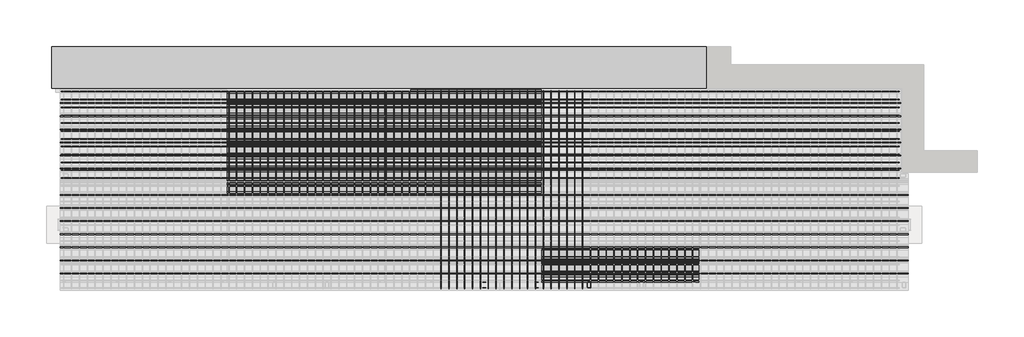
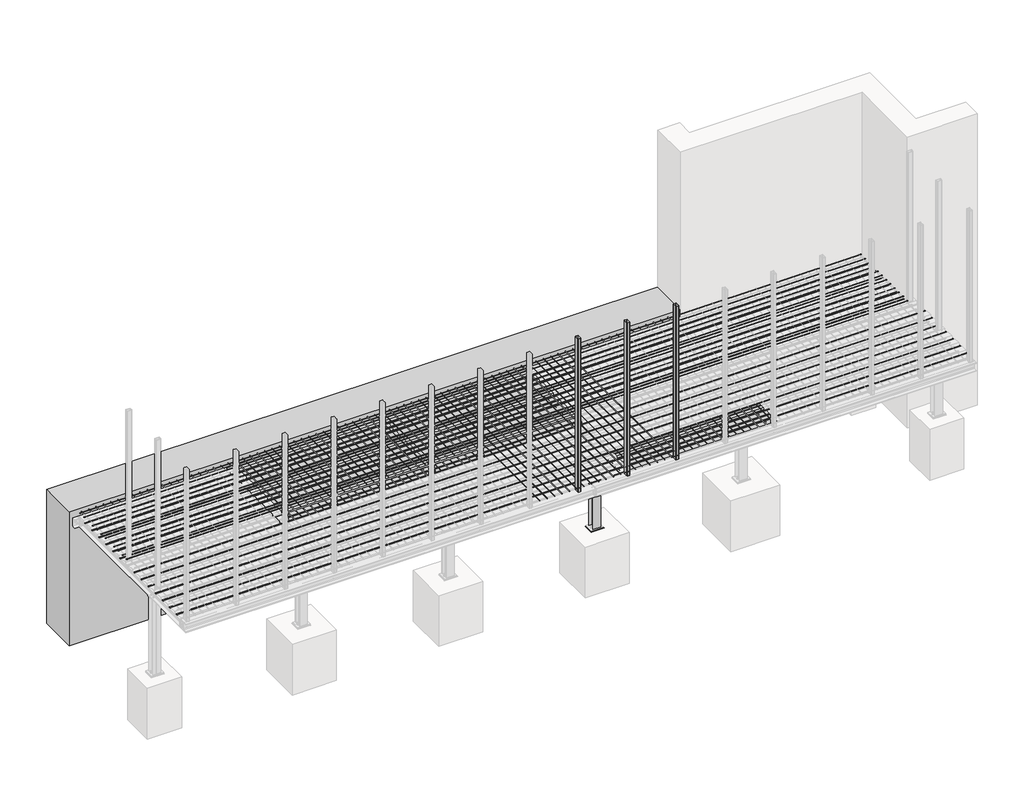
# One storey, part 3 of 36: 51 beams, 4 columns, 1 plate.
"""IFC4 building model written with IfcOpenShell, lengths in millimetres."""

from ifc_helpers import new_model, si_unit, point, frame, frame_2d, origin, place, context, project, spatial, polyline, circle_curve, trimmed, segment, composite_curve, outline, extrude, faceted_brep, element, save

model = new_model("IFC4")

# Units and contexts
model_context = context("Model", 3, world=origin())
ifc_project = project(units=[si_unit("LENGTHUNIT", "METRE", prefix="MILLI")], contexts=[model_context])

# Site, building, storey
site = spatial("IfcSite", under=ifc_project)
building = spatial("IfcBuilding", under=site)
storey = spatial("IfcBuildingStorey", under=building, Name="Základy", Elevation=-1200.0)

# Beams
placement = place(None, origin())
element("IfcBeam", 1, ObjectType="800*2900", at=placement, inside=storey, context=model_context, shape_type="SweptSolid", body=[
    extrude(outline(polyline([(12300.0, 3860.0), (-200.0, 3860.0), (-200.0, 4660.0), (12300.0, 4660.0), (12300.0, 3860.0)])), frame((0.0, 0.0, -2900.0), z_axis=(0.0, 0.0, 1.0), x_axis=(1.0, 0.0, 0.0)), (0.0, 0.0, 1.0), 2900.0),
])
element("IfcBeam", 2, ObjectType="D12", at=placement, inside=storey, context=model_context, shape_type="SweptSolid", body=[
    extrude(outline(composite_curve([segment(trimmed(circle_curve(frame_2d((3579.992562, -139.0)), 6.0), [point((3573.992562, -139.0))], [point((3585.992562, -139.0))], False, "CARTESIAN"), True, "CONTINUOUS"), segment(trimmed(circle_curve(frame_2d((3579.992562, -139.0)), 6.0), [point((3585.992562, -139.0))], [point((3573.992562, -139.0))], False, "CARTESIAN"), True, "CONTINUOUS")], self_intersect=False)), frame((-40.0, 0.0, 0.0), z_axis=(1.0, 0.0, 0.0), x_axis=(0.0, 1.0, 0.0)), (0.0, 0.0, 1.0), 16035.0),
])
element("IfcBeam", 3, ObjectType="D12", at=placement, inside=storey, context=model_context, shape_type="SweptSolid", body=[
    extrude(outline(composite_curve([segment(trimmed(circle_curve(frame_2d((3329.992562, -139.0)), 6.0), [point((3323.992562, -139.0))], [point((3335.992562, -139.0))], False, "CARTESIAN"), True, "CONTINUOUS"), segment(trimmed(circle_curve(frame_2d((3329.992562, -139.0)), 6.0), [point((3335.992562, -139.0))], [point((3323.992562, -139.0))], False, "CARTESIAN"), True, "CONTINUOUS")], self_intersect=False)), frame((-40.0, 0.0, 0.0), z_axis=(1.0, 0.0, 0.0), x_axis=(0.0, 1.0, 0.0)), (0.0, 0.0, 1.0), 16035.0),
])
element("IfcBeam", 4, ObjectType="D12", at=placement, inside=storey, context=model_context, shape_type="SweptSolid", body=[
    extrude(outline(composite_curve([segment(trimmed(circle_curve(frame_2d((3079.992562, -139.0)), 6.0), [point((3073.992562, -139.0))], [point((3085.992562, -139.0))], False, "CARTESIAN"), True, "CONTINUOUS"), segment(trimmed(circle_curve(frame_2d((3079.992562, -139.0)), 6.0), [point((3085.992562, -139.0))], [point((3073.992562, -139.0))], False, "CARTESIAN"), True, "CONTINUOUS")], self_intersect=False)), frame((-40.0, 0.0, 0.0), z_axis=(1.0, 0.0, 0.0), x_axis=(0.0, 1.0, 0.0)), (0.0, 0.0, 1.0), 16035.0),
])
element("IfcBeam", 5, ObjectType="D12", at=placement, inside=storey, context=model_context, shape_type="SweptSolid", body=[
    extrude(outline(composite_curve([segment(trimmed(circle_curve(frame_2d((2829.992562, -139.0)), 6.0), [point((2823.992562, -139.0))], [point((2835.992562, -139.0))], False, "CARTESIAN"), True, "CONTINUOUS"), segment(trimmed(circle_curve(frame_2d((2829.992562, -139.0)), 6.0), [point((2835.992562, -139.0))], [point((2823.992562, -139.0))], False, "CARTESIAN"), True, "CONTINUOUS")], self_intersect=False)), frame((-40.0, 0.0, 0.0), z_axis=(1.0, 0.0, 0.0), x_axis=(0.0, 1.0, 0.0)), (0.0, 0.0, 1.0), 16035.0),
])
element("IfcBeam", 6, ObjectType="D12", at=placement, inside=storey, context=model_context, shape_type="SweptSolid", body=[
    extrude(outline(composite_curve([segment(trimmed(circle_curve(frame_2d((2579.992562, -139.0)), 6.0), [point((2573.992562, -139.0))], [point((2585.992562, -139.0))], False, "CARTESIAN"), True, "CONTINUOUS"), segment(trimmed(circle_curve(frame_2d((2579.992562, -139.0)), 6.0), [point((2585.992562, -139.0))], [point((2573.992562, -139.0))], False, "CARTESIAN"), True, "CONTINUOUS")], self_intersect=False)), frame((-40.0, 0.0, 0.0), z_axis=(1.0, 0.0, 0.0), x_axis=(0.0, 1.0, 0.0)), (0.0, 0.0, 1.0), 16035.0),
])
element("IfcBeam", 7, ObjectType="D12", at=placement, inside=storey, context=model_context, shape_type="SweptSolid", body=[
    extrude(outline(composite_curve([segment(trimmed(circle_curve(frame_2d((2329.992562, -139.0)), 6.0), [point((2323.992562, -139.0))], [point((2335.992562, -139.0))], False, "CARTESIAN"), True, "CONTINUOUS"), segment(trimmed(circle_curve(frame_2d((2329.992562, -139.0)), 6.0), [point((2335.992562, -139.0))], [point((2323.992562, -139.0))], False, "CARTESIAN"), True, "CONTINUOUS")], self_intersect=False)), frame((-40.0, 0.0, 0.0), z_axis=(1.0, 0.0, 0.0), x_axis=(0.0, 1.0, 0.0)), (0.0, 0.0, 1.0), 16035.0),
])
element("IfcBeam", 8, ObjectType="D12", at=placement, inside=storey, context=model_context, shape_type="SweptSolid", body=[
    extrude(outline(composite_curve([segment(trimmed(circle_curve(frame_2d((1829.992562, -139.0)), 6.0), [point((1823.992562, -139.0))], [point((1835.992562, -139.0))], False, "CARTESIAN"), True, "CONTINUOUS"), segment(trimmed(circle_curve(frame_2d((1829.992562, -139.0)), 6.0), [point((1835.992562, -139.0))], [point((1823.992562, -139.0))], False, "CARTESIAN"), True, "CONTINUOUS")], self_intersect=False)), frame((-40.0, 0.0, 0.0), z_axis=(1.0, 0.0, 0.0), x_axis=(0.0, 1.0, 0.0)), (0.0, 0.0, 1.0), 16180.0),
])
element("IfcBeam", 9, ObjectType="D12", at=placement, inside=storey, context=model_context, shape_type="SweptSolid", body=[
    extrude(outline(composite_curve([segment(trimmed(circle_curve(frame_2d((1579.992562, -139.0)), 6.0), [point((1573.992562, -139.0))], [point((1585.992562, -139.0))], False, "CARTESIAN"), True, "CONTINUOUS"), segment(trimmed(circle_curve(frame_2d((1579.992562, -139.0)), 6.0), [point((1585.992562, -139.0))], [point((1573.992562, -139.0))], False, "CARTESIAN"), True, "CONTINUOUS")], self_intersect=False)), frame((-40.0, 0.0, 0.0), z_axis=(1.0, 0.0, 0.0), x_axis=(0.0, 1.0, 0.0)), (0.0, 0.0, 1.0), 16180.0),
])
element("IfcBeam", 10, ObjectType="D12", at=placement, inside=storey, context=model_context, shape_type="SweptSolid", body=[
    extrude(outline(composite_curve([segment(trimmed(circle_curve(frame_2d((1329.992562, -139.0)), 6.0), [point((1323.992562, -139.0))], [point((1335.992562, -139.0))], False, "CARTESIAN"), True, "CONTINUOUS"), segment(trimmed(circle_curve(frame_2d((1329.992562, -139.0)), 6.0), [point((1335.992562, -139.0))], [point((1323.992562, -139.0))], False, "CARTESIAN"), True, "CONTINUOUS")], self_intersect=False)), frame((-40.0, 0.0, 0.0), z_axis=(1.0, 0.0, 0.0), x_axis=(0.0, 1.0, 0.0)), (0.0, 0.0, 1.0), 16180.0),
])
element("IfcBeam", 11, ObjectType="D12", at=placement, inside=storey, context=model_context, shape_type="SweptSolid", body=[
    extrude(outline(composite_curve([segment(trimmed(circle_curve(frame_2d((1079.992562, -139.0)), 6.0), [point((1073.992562, -139.0))], [point((1085.992562, -139.0))], False, "CARTESIAN"), True, "CONTINUOUS"), segment(trimmed(circle_curve(frame_2d((1079.992562, -139.0)), 6.0), [point((1085.992562, -139.0))], [point((1073.992562, -139.0))], False, "CARTESIAN"), True, "CONTINUOUS")], self_intersect=False)), frame((-40.0, 0.0, 0.0), z_axis=(1.0, 0.0, 0.0), x_axis=(0.0, 1.0, 0.0)), (0.0, 0.0, 1.0), 16180.0),
])
element("IfcBeam", 12, ObjectType="D12", at=placement, inside=storey, context=model_context, shape_type="SweptSolid", body=[
    extrude(outline(composite_curve([segment(trimmed(circle_curve(frame_2d((829.992562, -139.0)), 6.0), [point((823.992562, -139.0))], [point((835.992562, -139.0))], False, "CARTESIAN"), True, "CONTINUOUS"), segment(trimmed(circle_curve(frame_2d((829.992562, -139.0)), 6.0), [point((835.992562, -139.0))], [point((823.992562, -139.0))], False, "CARTESIAN"), True, "CONTINUOUS")], self_intersect=False)), frame((-40.0, 0.0, 0.0), z_axis=(1.0, 0.0, 0.0), x_axis=(0.0, 1.0, 0.0)), (0.0, 0.0, 1.0), 16180.0),
])
element("IfcBeam", 13, ObjectType="D12", at=placement, inside=storey, context=model_context, shape_type="SweptSolid", body=[
    extrude(outline(composite_curve([segment(trimmed(circle_curve(frame_2d((579.992562, -139.0)), 6.0), [point((573.992562, -139.0))], [point((585.992562, -139.0))], False, "CARTESIAN"), True, "CONTINUOUS"), segment(trimmed(circle_curve(frame_2d((579.992562, -139.0)), 6.0), [point((585.992562, -139.0))], [point((573.992562, -139.0))], False, "CARTESIAN"), True, "CONTINUOUS")], self_intersect=False)), frame((-40.0, 0.0, 0.0), z_axis=(1.0, 0.0, 0.0), x_axis=(0.0, 1.0, 0.0)), (0.0, 0.0, 1.0), 16180.0),
])
element("IfcBeam", 14, ObjectType="D12", at=placement, inside=storey, context=model_context, shape_type="SweptSolid", body=[
    extrude(outline(composite_curve([segment(trimmed(circle_curve(frame_2d((329.992562, -139.0)), 6.0), [point((323.992562, -139.0))], [point((335.992562, -139.0))], False, "CARTESIAN"), True, "CONTINUOUS"), segment(trimmed(circle_curve(frame_2d((329.992562, -139.0)), 6.0), [point((335.992562, -139.0))], [point((323.992562, -139.0))], False, "CARTESIAN"), True, "CONTINUOUS")], self_intersect=False)), frame((-40.0, 0.0, 0.0), z_axis=(1.0, 0.0, 0.0), x_axis=(0.0, 1.0, 0.0)), (0.0, 0.0, 1.0), 16180.0),
])
element("IfcBeam", 15, ObjectType="D8", at=placement, inside=storey, context=model_context, shape_type="SweptSolid", body=[
    extrude(outline(composite_curve([segment(trimmed(circle_curve(frame_2d((3799.9975821, -57.0)), 4.0), [point((3795.9975821, -57.0))], [point((3803.9975821, -57.0))], False, "CARTESIAN"), True, "CONTINUOUS"), segment(trimmed(circle_curve(frame_2d((3799.9975821, -57.0)), 4.0), [point((3803.9975821, -57.0))], [point((3795.9975821, -57.0))], False, "CARTESIAN"), True, "CONTINUOUS")], self_intersect=False)), frame((-15.0, 0.0, 0.0), z_axis=(1.0, 0.0, 0.0), x_axis=(0.0, 1.0, 0.0)), (0.0, 0.0, 1.0), 15985.0),
])
element("IfcBeam", 16, ObjectType="D8", at=placement, inside=storey, context=model_context, shape_type="SweptSolid", body=[
    extrude(outline(composite_curve([segment(trimmed(circle_curve(frame_2d((3649.9975821, -57.0)), 4.0), [point((3645.9975821, -57.0))], [point((3653.9975821, -57.0))], False, "CARTESIAN"), True, "CONTINUOUS"), segment(trimmed(circle_curve(frame_2d((3649.9975821, -57.0)), 4.0), [point((3653.9975821, -57.0))], [point((3645.9975821, -57.0))], False, "CARTESIAN"), True, "CONTINUOUS")], self_intersect=False)), frame((-15.0, 0.0, 0.0), z_axis=(1.0, 0.0, 0.0), x_axis=(0.0, 1.0, 0.0)), (0.0, 0.0, 1.0), 15985.0),
])
element("IfcBeam", 17, ObjectType="D8", at=placement, inside=storey, context=model_context, shape_type="SweptSolid", body=[
    extrude(outline(composite_curve([segment(trimmed(circle_curve(frame_2d((3499.9975821, -57.0)), 4.0), [point((3495.9975821, -57.0))], [point((3503.9975821, -57.0))], False, "CARTESIAN"), True, "CONTINUOUS"), segment(trimmed(circle_curve(frame_2d((3499.9975821, -57.0)), 4.0), [point((3503.9975821, -57.0))], [point((3495.9975821, -57.0))], False, "CARTESIAN"), True, "CONTINUOUS")], self_intersect=False)), frame((-15.0, 0.0, 0.0), z_axis=(1.0, 0.0, 0.0), x_axis=(0.0, 1.0, 0.0)), (0.0, 0.0, 1.0), 15985.0),
])
element("IfcBeam", 18, ObjectType="D8", at=placement, inside=storey, context=model_context, shape_type="SweptSolid", body=[
    extrude(outline(composite_curve([segment(trimmed(circle_curve(frame_2d((3349.9975821, -57.0)), 4.0), [point((3345.9975821, -57.0))], [point((3353.9975821, -57.0))], False, "CARTESIAN"), True, "CONTINUOUS"), segment(trimmed(circle_curve(frame_2d((3349.9975821, -57.0)), 4.0), [point((3353.9975821, -57.0))], [point((3345.9975821, -57.0))], False, "CARTESIAN"), True, "CONTINUOUS")], self_intersect=False)), frame((-15.0, 0.0, 0.0), z_axis=(1.0, 0.0, 0.0), x_axis=(0.0, 1.0, 0.0)), (0.0, 0.0, 1.0), 15985.0),
])
element("IfcBeam", 19, ObjectType="D8", at=placement, inside=storey, context=model_context, shape_type="SweptSolid", body=[
    extrude(outline(composite_curve([segment(trimmed(circle_curve(frame_2d((3199.9975821, -57.0)), 4.0), [point((3195.9975821, -57.0))], [point((3203.9975821, -57.0))], False, "CARTESIAN"), True, "CONTINUOUS"), segment(trimmed(circle_curve(frame_2d((3199.9975821, -57.0)), 4.0), [point((3203.9975821, -57.0))], [point((3195.9975821, -57.0))], False, "CARTESIAN"), True, "CONTINUOUS")], self_intersect=False)), frame((-15.0, 0.0, 0.0), z_axis=(1.0, 0.0, 0.0), x_axis=(0.0, 1.0, 0.0)), (0.0, 0.0, 1.0), 15985.0),
])
element("IfcBeam", 20, ObjectType="D8", at=placement, inside=storey, context=model_context, shape_type="SweptSolid", body=[
    extrude(outline(composite_curve([segment(trimmed(circle_curve(frame_2d((3049.9975821, -57.0)), 4.0), [point((3045.9975821, -57.0))], [point((3053.9975821, -57.0))], False, "CARTESIAN"), True, "CONTINUOUS"), segment(trimmed(circle_curve(frame_2d((3049.9975821, -57.0)), 4.0), [point((3053.9975821, -57.0))], [point((3045.9975821, -57.0))], False, "CARTESIAN"), True, "CONTINUOUS")], self_intersect=False)), frame((-15.0, 0.0, 0.0), z_axis=(1.0, 0.0, 0.0), x_axis=(0.0, 1.0, 0.0)), (0.0, 0.0, 1.0), 15985.0),
])
element("IfcBeam", 21, ObjectType="D8", at=placement, inside=storey, context=model_context, shape_type="SweptSolid", body=[
    extrude(outline(composite_curve([segment(trimmed(circle_curve(frame_2d((2899.9975821, -57.0)), 4.0), [point((2895.9975821, -57.0))], [point((2903.9975821, -57.0))], False, "CARTESIAN"), True, "CONTINUOUS"), segment(trimmed(circle_curve(frame_2d((2899.9975821, -57.0)), 4.0), [point((2903.9975821, -57.0))], [point((2895.9975821, -57.0))], False, "CARTESIAN"), True, "CONTINUOUS")], self_intersect=False)), frame((-15.0, 0.0, 0.0), z_axis=(1.0, 0.0, 0.0), x_axis=(0.0, 1.0, 0.0)), (0.0, 0.0, 1.0), 15985.0),
])
element("IfcBeam", 22, ObjectType="D8", at=placement, inside=storey, context=model_context, shape_type="SweptSolid", body=[
    extrude(outline(composite_curve([segment(trimmed(circle_curve(frame_2d((2749.9975821, -57.0)), 4.0), [point((2745.9975821, -57.0))], [point((2753.9975821, -57.0))], False, "CARTESIAN"), True, "CONTINUOUS"), segment(trimmed(circle_curve(frame_2d((2749.9975821, -57.0)), 4.0), [point((2753.9975821, -57.0))], [point((2745.9975821, -57.0))], False, "CARTESIAN"), True, "CONTINUOUS")], self_intersect=False)), frame((-15.0, 0.0, 0.0), z_axis=(1.0, 0.0, 0.0), x_axis=(0.0, 1.0, 0.0)), (0.0, 0.0, 1.0), 15985.0),
])
element("IfcBeam", 23, ObjectType="D8", at=placement, inside=storey, context=model_context, shape_type="SweptSolid", body=[
    extrude(outline(composite_curve([segment(trimmed(circle_curve(frame_2d((2599.9975821, -57.0)), 4.0), [point((2595.9975821, -57.0))], [point((2603.9975821, -57.0))], False, "CARTESIAN"), True, "CONTINUOUS"), segment(trimmed(circle_curve(frame_2d((2599.9975821, -57.0)), 4.0), [point((2603.9975821, -57.0))], [point((2595.9975821, -57.0))], False, "CARTESIAN"), True, "CONTINUOUS")], self_intersect=False)), frame((-15.0, 0.0, 0.0), z_axis=(1.0, 0.0, 0.0), x_axis=(0.0, 1.0, 0.0)), (0.0, 0.0, 1.0), 15985.0),
])
element("IfcBeam", 24, ObjectType="D8", at=placement, inside=storey, context=model_context, shape_type="SweptSolid", body=[
    extrude(outline(composite_curve([segment(trimmed(circle_curve(frame_2d((2449.9975821, -57.0)), 4.0), [point((2445.9975821, -57.0))], [point((2453.9975821, -57.0))], False, "CARTESIAN"), True, "CONTINUOUS"), segment(trimmed(circle_curve(frame_2d((2449.9975821, -57.0)), 4.0), [point((2453.9975821, -57.0))], [point((2445.9975821, -57.0))], False, "CARTESIAN"), True, "CONTINUOUS")], self_intersect=False)), frame((-15.0, 0.0, 0.0), z_axis=(1.0, 0.0, 0.0), x_axis=(0.0, 1.0, 0.0)), (0.0, 0.0, 1.0), 15985.0),
])
element("IfcBeam", 25, ObjectType="D8", at=placement, inside=storey, context=model_context, shape_type="SweptSolid", body=[
    extrude(outline(composite_curve([segment(trimmed(circle_curve(frame_2d((2299.9975821, -57.0)), 4.0), [point((2295.9975821, -57.0))], [point((2303.9975821, -57.0))], False, "CARTESIAN"), True, "CONTINUOUS"), segment(trimmed(circle_curve(frame_2d((2299.9975821, -57.0)), 4.0), [point((2303.9975821, -57.0))], [point((2295.9975821, -57.0))], False, "CARTESIAN"), True, "CONTINUOUS")], self_intersect=False)), frame((-15.0, 0.0, 0.0), z_axis=(1.0, 0.0, 0.0), x_axis=(0.0, 1.0, 0.0)), (0.0, 0.0, 1.0), 15985.0),
])
element("IfcBeam", 26, ObjectType="D8", at=placement, inside=storey, context=model_context, shape_type="SweptSolid", body=[
    extrude(outline(composite_curve([segment(trimmed(circle_curve(frame_2d((2149.9975821, -57.0)), 4.0), [point((2145.9975821, -57.0))], [point((2153.9975821, -57.0))], False, "CARTESIAN"), True, "CONTINUOUS"), segment(trimmed(circle_curve(frame_2d((2149.9975821, -57.0)), 4.0), [point((2153.9975821, -57.0))], [point((2145.9975821, -57.0))], False, "CARTESIAN"), True, "CONTINUOUS")], self_intersect=False)), frame((-15.0, 0.0, 0.0), z_axis=(1.0, 0.0, 0.0), x_axis=(0.0, 1.0, 0.0)), (0.0, 0.0, 1.0), 15985.0),
])
element("IfcBeam", 27, ObjectType="D8", at=placement, inside=storey, context=model_context, shape_type="SweptSolid", body=[
    extrude(outline(composite_curve([segment(trimmed(circle_curve(frame_2d((-49.0, 7227.5)), 4.0), [point((-49.0, 7223.5))], [point((-49.0, 7231.5))], False, "CARTESIAN"), True, "CONTINUOUS"), segment(trimmed(circle_curve(frame_2d((-49.0, 7227.5)), 4.0), [point((-49.0, 7231.5))], [point((-49.0, 7223.5))], False, "CARTESIAN"), True, "CONTINUOUS")], self_intersect=False)), frame((0.0, 35.0, 0.0), z_axis=(0.0, 1.0, 0.0), x_axis=(0.0, 0.0, 1.0)), (0.0, 0.0, 1.0), 3780.0),
])
element("IfcBeam", 28, ObjectType="D8", at=placement, inside=storey, context=model_context, shape_type="SweptSolid", body=[
    extrude(outline(composite_curve([segment(trimmed(circle_curve(frame_2d((-49.0, 7377.5)), 4.0), [point((-49.0, 7373.5))], [point((-49.0, 7381.5))], False, "CARTESIAN"), True, "CONTINUOUS"), segment(trimmed(circle_curve(frame_2d((-49.0, 7377.5)), 4.0), [point((-49.0, 7381.5))], [point((-49.0, 7373.5))], False, "CARTESIAN"), True, "CONTINUOUS")], self_intersect=False)), frame((0.0, 35.0, 0.0), z_axis=(0.0, 1.0, 0.0), x_axis=(0.0, 0.0, 1.0)), (0.0, 0.0, 1.0), 3780.0),
])
element("IfcBeam", 29, ObjectType="D8", at=placement, inside=storey, context=model_context, shape_type="SweptSolid", body=[
    extrude(outline(composite_curve([segment(trimmed(circle_curve(frame_2d((-49.0, 7527.5)), 4.0), [point((-49.0, 7523.5))], [point((-49.0, 7531.5))], False, "CARTESIAN"), True, "CONTINUOUS"), segment(trimmed(circle_curve(frame_2d((-49.0, 7527.5)), 4.0), [point((-49.0, 7531.5))], [point((-49.0, 7523.5))], False, "CARTESIAN"), True, "CONTINUOUS")], self_intersect=False)), frame((0.0, 35.0, 0.0), z_axis=(0.0, 1.0, 0.0), x_axis=(0.0, 0.0, 1.0)), (0.0, 0.0, 1.0), 3780.0),
])
element("IfcBeam", 30, ObjectType="D8", at=placement, inside=storey, context=model_context, shape_type="SweptSolid", body=[
    extrude(outline(composite_curve([segment(trimmed(circle_curve(frame_2d((-49.0, 7677.5)), 4.0), [point((-49.0, 7673.5))], [point((-49.0, 7681.5))], False, "CARTESIAN"), True, "CONTINUOUS"), segment(trimmed(circle_curve(frame_2d((-49.0, 7677.5)), 4.0), [point((-49.0, 7681.5))], [point((-49.0, 7673.5))], False, "CARTESIAN"), True, "CONTINUOUS")], self_intersect=False)), frame((0.0, 35.0, 0.0), z_axis=(0.0, 1.0, 0.0), x_axis=(0.0, 0.0, 1.0)), (0.0, 0.0, 1.0), 3780.0),
])
element("IfcBeam", 31, ObjectType="D8", at=placement, inside=storey, context=model_context, shape_type="SweptSolid", body=[
    extrude(outline(composite_curve([segment(trimmed(circle_curve(frame_2d((-49.0, 7827.5)), 4.0), [point((-49.0, 7823.5))], [point((-49.0, 7831.5))], False, "CARTESIAN"), True, "CONTINUOUS"), segment(trimmed(circle_curve(frame_2d((-49.0, 7827.5)), 4.0), [point((-49.0, 7831.5))], [point((-49.0, 7823.5))], False, "CARTESIAN"), True, "CONTINUOUS")], self_intersect=False)), frame((0.0, 35.0, 0.0), z_axis=(0.0, 1.0, 0.0), x_axis=(0.0, 0.0, 1.0)), (0.0, 0.0, 1.0), 3780.0),
])
element("IfcBeam", 32, ObjectType="D8", at=placement, inside=storey, context=model_context, shape_type="SweptSolid", body=[
    extrude(outline(composite_curve([segment(trimmed(circle_curve(frame_2d((-49.0, 7977.5)), 4.0), [point((-49.0, 7973.5))], [point((-49.0, 7981.5))], False, "CARTESIAN"), True, "CONTINUOUS"), segment(trimmed(circle_curve(frame_2d((-49.0, 7977.5)), 4.0), [point((-49.0, 7981.5))], [point((-49.0, 7973.5))], False, "CARTESIAN"), True, "CONTINUOUS")], self_intersect=False)), frame((0.0, 35.0, 0.0), z_axis=(0.0, 1.0, 0.0), x_axis=(0.0, 0.0, 1.0)), (0.0, 0.0, 1.0), 3780.0),
])
element("IfcBeam", 33, ObjectType="D8", at=placement, inside=storey, context=model_context, shape_type="SweptSolid", body=[
    extrude(outline(composite_curve([segment(trimmed(circle_curve(frame_2d((-49.0, 8127.5)), 4.0), [point((-49.0, 8123.5))], [point((-49.0, 8131.5))], False, "CARTESIAN"), True, "CONTINUOUS"), segment(trimmed(circle_curve(frame_2d((-49.0, 8127.5)), 4.0), [point((-49.0, 8131.5))], [point((-49.0, 8123.5))], False, "CARTESIAN"), True, "CONTINUOUS")], self_intersect=False)), frame((0.0, 35.0, 0.0), z_axis=(0.0, 1.0, 0.0), x_axis=(0.0, 0.0, 1.0)), (0.0, 0.0, 1.0), 3780.0),
])
element("IfcBeam", 34, ObjectType="D8", at=placement, inside=storey, context=model_context, shape_type="SweptSolid", body=[
    extrude(outline(composite_curve([segment(trimmed(circle_curve(frame_2d((-49.0, 8277.5)), 4.0), [point((-49.0, 8273.5))], [point((-49.0, 8281.5))], False, "CARTESIAN"), True, "CONTINUOUS"), segment(trimmed(circle_curve(frame_2d((-49.0, 8277.5)), 4.0), [point((-49.0, 8281.5))], [point((-49.0, 8273.5))], False, "CARTESIAN"), True, "CONTINUOUS")], self_intersect=False)), frame((0.0, 35.0, 0.0), z_axis=(0.0, 1.0, 0.0), x_axis=(0.0, 0.0, 1.0)), (0.0, 0.0, 1.0), 3780.0),
])
element("IfcBeam", 35, ObjectType="D8", at=placement, inside=storey, context=model_context, shape_type="SweptSolid", body=[
    extrude(outline(composite_curve([segment(trimmed(circle_curve(frame_2d((-49.0, 8427.5)), 4.0), [point((-49.0, 8423.5))], [point((-49.0, 8431.5))], False, "CARTESIAN"), True, "CONTINUOUS"), segment(trimmed(circle_curve(frame_2d((-49.0, 8427.5)), 4.0), [point((-49.0, 8431.5))], [point((-49.0, 8423.5))], False, "CARTESIAN"), True, "CONTINUOUS")], self_intersect=False)), frame((0.0, 35.0, 0.0), z_axis=(0.0, 1.0, 0.0), x_axis=(0.0, 0.0, 1.0)), (0.0, 0.0, 1.0), 3780.0),
])
element("IfcBeam", 36, ObjectType="D8", at=placement, inside=storey, context=model_context, shape_type="SweptSolid", body=[
    extrude(outline(composite_curve([segment(trimmed(circle_curve(frame_2d((-49.0, 8577.5)), 4.0), [point((-49.0, 8573.5))], [point((-49.0, 8581.5))], False, "CARTESIAN"), True, "CONTINUOUS"), segment(trimmed(circle_curve(frame_2d((-49.0, 8577.5)), 4.0), [point((-49.0, 8581.5))], [point((-49.0, 8573.5))], False, "CARTESIAN"), True, "CONTINUOUS")], self_intersect=False)), frame((0.0, 35.0, 0.0), z_axis=(0.0, 1.0, 0.0), x_axis=(0.0, 0.0, 1.0)), (0.0, 0.0, 1.0), 3780.0),
])
element("IfcBeam", 37, ObjectType="D8", at=placement, inside=storey, context=model_context, shape_type="SweptSolid", body=[
    extrude(outline(composite_curve([segment(trimmed(circle_curve(frame_2d((-49.0, 8727.5)), 4.0), [point((-49.0, 8723.5))], [point((-49.0, 8731.5))], False, "CARTESIAN"), True, "CONTINUOUS"), segment(trimmed(circle_curve(frame_2d((-49.0, 8727.5)), 4.0), [point((-49.0, 8731.5))], [point((-49.0, 8723.5))], False, "CARTESIAN"), True, "CONTINUOUS")], self_intersect=False)), frame((0.0, 35.0, 0.0), z_axis=(0.0, 1.0, 0.0), x_axis=(0.0, 0.0, 1.0)), (0.0, 0.0, 1.0), 3780.0),
])
element("IfcBeam", 38, ObjectType="D8", at=placement, inside=storey, context=model_context, shape_type="SweptSolid", body=[
    extrude(outline(composite_curve([segment(trimmed(circle_curve(frame_2d((-49.0, 8877.5)), 4.0), [point((-49.0, 8873.5))], [point((-49.0, 8881.5))], False, "CARTESIAN"), True, "CONTINUOUS"), segment(trimmed(circle_curve(frame_2d((-49.0, 8877.5)), 4.0), [point((-49.0, 8881.5))], [point((-49.0, 8873.5))], False, "CARTESIAN"), True, "CONTINUOUS")], self_intersect=False)), frame((0.0, 35.0, 0.0), z_axis=(0.0, 1.0, 0.0), x_axis=(0.0, 0.0, 1.0)), (0.0, 0.0, 1.0), 3780.0),
])
element("IfcBeam", 39, ObjectType="D8", at=placement, inside=storey, context=model_context, shape_type="SweptSolid", body=[
    extrude(outline(composite_curve([segment(trimmed(circle_curve(frame_2d((-49.0, 9027.5)), 4.0), [point((-49.0, 9023.5))], [point((-49.0, 9031.5))], False, "CARTESIAN"), True, "CONTINUOUS"), segment(trimmed(circle_curve(frame_2d((-49.0, 9027.5)), 4.0), [point((-49.0, 9031.5))], [point((-49.0, 9023.5))], False, "CARTESIAN"), True, "CONTINUOUS")], self_intersect=False)), frame((0.0, 35.0, 0.0), z_axis=(0.0, 1.0, 0.0), x_axis=(0.0, 0.0, 1.0)), (0.0, 0.0, 1.0), 3780.0),
])
element("IfcBeam", 40, ObjectType="D8", at=placement, inside=storey, context=model_context, shape_type="SweptSolid", body=[
    extrude(outline(composite_curve([segment(trimmed(circle_curve(frame_2d((-49.0, 9177.5)), 4.0), [point((-49.0, 9173.5))], [point((-49.0, 9181.5))], False, "CARTESIAN"), True, "CONTINUOUS"), segment(trimmed(circle_curve(frame_2d((-49.0, 9177.5)), 4.0), [point((-49.0, 9181.5))], [point((-49.0, 9173.5))], False, "CARTESIAN"), True, "CONTINUOUS")], self_intersect=False)), frame((0.0, 35.0, 0.0), z_axis=(0.0, 1.0, 0.0), x_axis=(0.0, 0.0, 1.0)), (0.0, 0.0, 1.0), 3780.0),
])
element("IfcBeam", 41, ObjectType="D8", at=placement, inside=storey, context=model_context, shape_type="SweptSolid", body=[
    extrude(outline(composite_curve([segment(trimmed(circle_curve(frame_2d((-49.0, 9327.5)), 4.0), [point((-49.0, 9323.5))], [point((-49.0, 9331.5))], False, "CARTESIAN"), True, "CONTINUOUS"), segment(trimmed(circle_curve(frame_2d((-49.0, 9327.5)), 4.0), [point((-49.0, 9331.5))], [point((-49.0, 9323.5))], False, "CARTESIAN"), True, "CONTINUOUS")], self_intersect=False)), frame((0.0, 35.0, 0.0), z_axis=(0.0, 1.0, 0.0), x_axis=(0.0, 0.0, 1.0)), (0.0, 0.0, 1.0), 3780.0),
])
element("IfcBeam", 42, ObjectType="D8", at=placement, inside=storey, context=model_context, shape_type="SweptSolid", body=[
    extrude(outline(composite_curve([segment(trimmed(circle_curve(frame_2d((-49.0, 9477.5)), 4.0), [point((-49.0, 9473.5))], [point((-49.0, 9481.5))], False, "CARTESIAN"), True, "CONTINUOUS"), segment(trimmed(circle_curve(frame_2d((-49.0, 9477.5)), 4.0), [point((-49.0, 9481.5))], [point((-49.0, 9473.5))], False, "CARTESIAN"), True, "CONTINUOUS")], self_intersect=False)), frame((0.0, 35.0, 0.0), z_axis=(0.0, 1.0, 0.0), x_axis=(0.0, 0.0, 1.0)), (0.0, 0.0, 1.0), 3780.0),
])
element("IfcBeam", 43, ObjectType="D8", at=placement, inside=storey, context=model_context, shape_type="SweptSolid", body=[
    extrude(outline(composite_curve([segment(trimmed(circle_curve(frame_2d((-49.0, 9627.5)), 4.0), [point((-49.0, 9623.5))], [point((-49.0, 9631.5))], False, "CARTESIAN"), True, "CONTINUOUS"), segment(trimmed(circle_curve(frame_2d((-49.0, 9627.5)), 4.0), [point((-49.0, 9631.5))], [point((-49.0, 9623.5))], False, "CARTESIAN"), True, "CONTINUOUS")], self_intersect=False)), frame((0.0, 35.0, 0.0), z_axis=(0.0, 1.0, 0.0), x_axis=(0.0, 0.0, 1.0)), (0.0, 0.0, 1.0), 3780.0),
])
element("IfcBeam", 44, ObjectType="D8", at=placement, inside=storey, context=model_context, shape_type="SweptSolid", body=[
    extrude(outline(composite_curve([segment(trimmed(circle_curve(frame_2d((-49.0, 9777.5)), 4.0), [point((-49.0, 9773.5))], [point((-49.0, 9781.5))], False, "CARTESIAN"), True, "CONTINUOUS"), segment(trimmed(circle_curve(frame_2d((-49.0, 9777.5)), 4.0), [point((-49.0, 9781.5))], [point((-49.0, 9773.5))], False, "CARTESIAN"), True, "CONTINUOUS")], self_intersect=False)), frame((0.0, 35.0, 0.0), z_axis=(0.0, 1.0, 0.0), x_axis=(0.0, 0.0, 1.0)), (0.0, 0.0, 1.0), 3780.0),
])
element("IfcBeam", 45, ObjectType="D8", at=placement, inside=storey, context=model_context, shape_type="SweptSolid", body=[
    extrude(outline(composite_curve([segment(trimmed(circle_curve(frame_2d((-49.0, 9927.5)), 4.0), [point((-49.0, 9923.5))], [point((-49.0, 9931.5))], False, "CARTESIAN"), True, "CONTINUOUS"), segment(trimmed(circle_curve(frame_2d((-49.0, 9927.5)), 4.0), [point((-49.0, 9931.5))], [point((-49.0, 9923.5))], False, "CARTESIAN"), True, "CONTINUOUS")], self_intersect=False)), frame((0.0, 35.0, 0.0), z_axis=(0.0, 1.0, 0.0), x_axis=(0.0, 0.0, 1.0)), (0.0, 0.0, 1.0), 3780.0),
])
element("IfcBeam", 46, ObjectType="HEB180", at=placement, inside=storey, context=model_context, shape_type="SweptSolid", body=[
    extrude(outline(composite_curve([segment(polyline([(-340.0, 9140.0), (-326.0, 9140.0), (-326.0, 9069.25)]), True, "CONTINUOUS"), segment(trimmed(circle_curve(frame_2d((-311.0, 9069.25)), 15.0), [point((-326.0, 9069.25))], [point((-311.0, 9054.25))], True, "CARTESIAN"), True, "CONTINUOUS"), segment(polyline([(-311.0, 9054.25), (-189.0, 9054.25)]), True, "CONTINUOUS"), segment(trimmed(circle_curve(frame_2d((-189.0, 9069.25)), 15.0), [point((-189.0, 9054.25))], [point((-174.0, 9069.25))], True, "CARTESIAN"), True, "CONTINUOUS"), segment(polyline([(-174.0, 9069.25), (-174.0, 9140.0), (-160.0, 9140.0), (-160.0, 8960.0), (-174.0, 8960.0), (-174.0, 9030.75)]), True, "CONTINUOUS"), segment(trimmed(circle_curve(frame_2d((-189.0, 9030.75)), 15.0), [point((-174.0, 9030.75))], [point((-189.0, 9045.75))], True, "CARTESIAN"), True, "CONTINUOUS"), segment(polyline([(-189.0, 9045.75), (-311.0, 9045.75)]), True, "CONTINUOUS"), segment(trimmed(circle_curve(frame_2d((-311.0, 9030.75)), 15.0), [point((-311.0, 9045.75))], [point((-326.0, 9030.75))], True, "CARTESIAN"), True, "CONTINUOUS"), segment(polyline([(-326.0, 9030.75), (-326.0, 8960.0), (-340.0, 8960.0), (-340.0, 9140.0)]), True, "CONTINUOUS")], self_intersect=False)), frame((0.0, 210.0, 0.0), z_axis=(0.0, 1.0, 0.0), x_axis=(0.0, 0.0, 1.0)), (0.0, 0.0, 1.0), 3557.0),
])
element("IfcBeam", 47, ObjectType="TR50/250", at=placement, inside=storey, context=model_context, shape_type="SweptSolid", body=[
    extrude(outline(polyline([(3802.7875602, -160.0099992), (3772.2875602, -111.5000008), (3637.6975638, -111.5000008), (3607.1975638, -160.0000008), (3552.7875754, -160.0000008), (3522.2875754, -111.5000008), (3387.6975715, -111.5000008), (3357.1975715, -160.0000008), (3302.7875697, -160.0000008), (3272.2875716, -111.5000008), (3137.6975638, -111.5000008), (3107.1975638, -160.0000008), (3052.7875602, -160.0000008), (3022.2875602, -111.5000008), (2887.6975638, -111.5000008), (2857.1975638, -160.0000008), (2802.7875602, -160.0000008), (2790.7375724, -139.4300002), (2803.1975638, -159.2500008), (2856.7875602, -159.2500008), (2887.2875602, -110.7500008), (3022.6975638, -110.7500008), (3053.1975638, -159.2500008), (3106.7875754, -159.2500008), (3137.2875754, -110.7500008), (3272.6975715, -110.7500008), (3303.1975695, -159.2500008), (3356.7875716, -159.2500008), (3387.2875678, -110.7500008), (3522.6975638, -110.7500008), (3553.1975638, -159.2500008), (3606.7875602, -159.2500008), (3637.2875602, -110.7500008), (3772.6975638, -110.7500008), (3803.1975638, -159.2500008), (3839.9975821, -160.0000008), (3802.7875602, -160.0099992)])), frame((2960.0, 0.0, 0.0), z_axis=(1.0, 0.0, 0.0), x_axis=(0.0, 1.0, 0.0)), (0.0, 0.0, 1.0), 3180.0),
])
element("IfcBeam", 48, ObjectType="TR50/250", at=placement, inside=storey, context=model_context, shape_type="SweptSolid", body=[
    extrude(outline(polyline([(2802.7875602, -160.0099992), (2772.2875602, -111.5000008), (2637.6975638, -111.5000008), (2607.1975638, -160.0000008), (2552.7875754, -160.0000008), (2522.2875754, -111.5000008), (2387.6975715, -111.5000008), (2357.1975715, -160.0000008), (2302.7875697, -160.0000008), (2272.2875716, -111.5000008), (2137.6975638, -111.5000008), (2107.1975638, -160.0000008), (2052.7875602, -160.0000008), (2022.2875602, -111.5000008), (1887.6975638, -111.5000008), (1857.1975638, -160.0000008), (1802.7875602, -160.0000008), (1790.7375724, -139.4300002), (1803.1975638, -159.2500008), (1856.7875602, -159.2500008), (1887.2875602, -110.7500008), (2022.6975638, -110.7500008), (2053.1975638, -159.2500008), (2106.7875754, -159.2500008), (2137.2875754, -110.7500008), (2272.6975715, -110.7500008), (2303.1975695, -159.2500008), (2356.7875716, -159.2500008), (2387.2875678, -110.7500008), (2522.6975638, -110.7500008), (2553.1975638, -159.2500008), (2606.7875602, -159.2500008), (2637.2875602, -110.7500008), (2772.6975638, -110.7500008), (2803.1975638, -159.2500008), (2839.9975821, -160.0000008), (2802.7875602, -160.0099992)])), frame((2960.0, 0.0, 0.0), z_axis=(1.0, 0.0, 0.0), x_axis=(0.0, 1.0, 0.0)), (0.0, 0.0, 1.0), 3180.0),
])
element("IfcBeam", 49, ObjectType="TR50/250", at=placement, inside=storey, context=model_context, shape_type="SweptSolid", body=[
    extrude(outline(polyline([(3802.7875602, -160.0099992), (3772.2875602, -111.5000008), (3637.6975638, -111.5000008), (3607.1975638, -160.0000008), (3552.7875754, -160.0000008), (3522.2875754, -111.5000008), (3387.6975715, -111.5000008), (3357.1975715, -160.0000008), (3302.7875697, -160.0000008), (3272.2875716, -111.5000008), (3137.6975638, -111.5000008), (3107.1975638, -160.0000008), (3052.7875602, -160.0000008), (3022.2875602, -111.5000008), (2887.6975638, -111.5000008), (2857.1975638, -160.0000008), (2802.7875602, -160.0000008), (2790.7375724, -139.4300002), (2803.1975638, -159.2500008), (2856.7875602, -159.2500008), (2887.2875602, -110.7500008), (3022.6975638, -110.7500008), (3053.1975638, -159.2500008), (3106.7875754, -159.2500008), (3137.2875754, -110.7500008), (3272.6975715, -110.7500008), (3303.1975695, -159.2500008), (3356.7875716, -159.2500008), (3387.2875678, -110.7500008), (3522.6975638, -110.7500008), (3553.1975638, -159.2500008), (3606.7875602, -159.2500008), (3637.2875602, -110.7500008), (3772.6975638, -110.7500008), (3803.1975638, -159.2500008), (3839.9975821, -160.0000008), (3802.7875602, -160.0099992)])), frame((5960.0, 0.0, 0.0), z_axis=(1.0, 0.0, 0.0), x_axis=(0.0, 1.0, 0.0)), (0.0, 0.0, 1.0), 3180.0),
])
element("IfcBeam", 50, ObjectType="TR50/250", at=placement, inside=storey, context=model_context, shape_type="SweptSolid", body=[
    extrude(outline(polyline([(2802.7875602, -160.0099992), (2772.2875602, -111.5000008), (2637.6975638, -111.5000008), (2607.1975638, -160.0000008), (2552.7875754, -160.0000008), (2522.2875754, -111.5000008), (2387.6975715, -111.5000008), (2357.1975715, -160.0000008), (2302.7875697, -160.0000008), (2272.2875716, -111.5000008), (2137.6975638, -111.5000008), (2107.1975638, -160.0000008), (2052.7875602, -160.0000008), (2022.2875602, -111.5000008), (1887.6975638, -111.5000008), (1857.1975638, -160.0000008), (1802.7875602, -160.0000008), (1790.7375724, -139.4300002), (1803.1975638, -159.2500008), (1856.7875602, -159.2500008), (1887.2875602, -110.7500008), (2022.6975638, -110.7500008), (2053.1975638, -159.2500008), (2106.7875754, -159.2500008), (2137.2875754, -110.7500008), (2272.6975715, -110.7500008), (2303.1975695, -159.2500008), (2356.7875716, -159.2500008), (2387.2875678, -110.7500008), (2522.6975638, -110.7500008), (2553.1975638, -159.2500008), (2606.7875602, -159.2500008), (2637.2875602, -110.7500008), (2772.6975638, -110.7500008), (2803.1975638, -159.2500008), (2839.9975821, -160.0000008), (2802.7875602, -160.0099992)])), frame((5960.0, 0.0, 0.0), z_axis=(1.0, 0.0, 0.0), x_axis=(0.0, 1.0, 0.0)), (0.0, 0.0, 1.0), 3180.0),
])
element("IfcBeam", 51, ObjectType="TR50/250", at=placement, inside=storey, context=model_context, shape_type="SweptSolid", body=[
    extrude(outline(polyline([(802.7875602, -160.0099992), (772.2875602, -111.5000008), (637.6975638, -111.5000008), (607.1975638, -160.0000008), (552.7875754, -160.0000008), (522.2875754, -111.5000008), (387.6975715, -111.5000008), (357.1975715, -160.0000008), (302.7875697, -160.0000008), (272.2875716, -111.5000008), (160.0, -111.5000008), (160.0, -110.7500008), (272.6975715, -110.7500008), (303.1975695, -159.2500008), (356.7875716, -159.2500008), (387.2875678, -110.7500008), (522.6975638, -110.7500008), (553.1975638, -159.2500008), (606.7875602, -159.2500008), (637.2875602, -110.7500008), (772.6975638, -110.7500008), (803.1975638, -159.2500008), (839.9975821, -160.0000008), (802.7875602, -160.0099992)])), frame((8960.0, 0.0, 0.0), z_axis=(1.0, 0.0, 0.0), x_axis=(0.0, 1.0, 0.0)), (0.0, 0.0, 1.0), 3180.0),
])

# Columns
element("IfcColumn", 52, ObjectType="RHS100*60*3.2", at=placement, inside=storey, context=model_context, shape_type="SweptSolid", body=[
    extrude(outline(composite_curve([segment(polyline([(9073.6, 60.0), (9026.4, 60.0)]), True, "CONTINUOUS"), segment(trimmed(circle_curve(frame_2d((9026.4, 66.4)), 6.4), [point((9026.4, 60.0))], [point((9020.0, 66.4))], False, "CARTESIAN"), True, "CONTINUOUS"), segment(polyline([(9020.0, 66.4), (9020.0, 153.6)]), True, "CONTINUOUS"), segment(trimmed(circle_curve(frame_2d((9026.4, 153.6)), 6.4), [point((9020.0, 153.6))], [point((9026.4, 160.0))], False, "CARTESIAN"), True, "CONTINUOUS"), segment(polyline([(9026.4, 160.0), (9073.6, 160.0)]), True, "CONTINUOUS"), segment(trimmed(circle_curve(frame_2d((9073.6, 153.6)), 6.4), [point((9073.6, 160.0))], [point((9080.0, 153.6))], False, "CARTESIAN"), True, "CONTINUOUS"), segment(polyline([(9080.0, 153.6), (9080.0, 66.4)]), True, "CONTINUOUS"), segment(trimmed(circle_curve(frame_2d((9073.6, 66.4)), 6.4), [point((9080.0, 66.4))], [point((9073.6, 60.0))], False, "CARTESIAN"), True, "CONTINUOUS")], self_intersect=False), holes=[composite_curve([segment(trimmed(circle_curve(frame_2d((9073.6, 66.4)), 3.2), [point((9073.6, 63.2))], [point((9076.8, 66.4))], True, "CARTESIAN"), True, "CONTINUOUS"), segment(polyline([(9076.8, 66.4), (9076.8, 153.6)]), True, "CONTINUOUS"), segment(trimmed(circle_curve(frame_2d((9073.6, 153.6)), 3.2), [point((9076.8, 153.6))], [point((9073.6, 156.8))], True, "CARTESIAN"), True, "CONTINUOUS"), segment(polyline([(9073.6, 156.8), (9026.4, 156.8)]), True, "CONTINUOUS"), segment(trimmed(circle_curve(frame_2d((9026.4, 153.6)), 3.2), [point((9026.4, 156.8))], [point((9023.2, 153.6))], True, "CARTESIAN"), True, "CONTINUOUS"), segment(polyline([(9023.2, 153.6), (9023.2, 66.4)]), True, "CONTINUOUS"), segment(trimmed(circle_curve(frame_2d((9026.4, 66.4)), 3.2), [point((9023.2, 66.4))], [point((9026.4, 63.2))], True, "CARTESIAN"), True, "CONTINUOUS"), segment(polyline([(9026.4, 63.2), (9073.6, 63.2)]), True, "CONTINUOUS")], self_intersect=False)]), frame((0.0, 0.0, -160.0), z_axis=(0.0, 0.0, 1.0), x_axis=(1.0, 0.0, 0.0)), (0.0, 0.0, 1.0), 3320.0),
])
element("IfcColumn", 53, ObjectType="RHS100*60*3.2", at=placement, inside=storey, context=model_context, shape_type="SweptSolid", body=[
    extrude(outline(composite_curve([segment(polyline([(8073.6, 60.0), (8026.4, 60.0)]), True, "CONTINUOUS"), segment(trimmed(circle_curve(frame_2d((8026.4, 66.4)), 6.4), [point((8026.4, 60.0))], [point((8020.0, 66.4))], False, "CARTESIAN"), True, "CONTINUOUS"), segment(polyline([(8020.0, 66.4), (8020.0, 153.6)]), True, "CONTINUOUS"), segment(trimmed(circle_curve(frame_2d((8026.4, 153.6)), 6.4), [point((8020.0, 153.6))], [point((8026.4, 160.0))], False, "CARTESIAN"), True, "CONTINUOUS"), segment(polyline([(8026.4, 160.0), (8073.6, 160.0)]), True, "CONTINUOUS"), segment(trimmed(circle_curve(frame_2d((8073.6, 153.6)), 6.4), [point((8073.6, 160.0))], [point((8080.0, 153.6))], False, "CARTESIAN"), True, "CONTINUOUS"), segment(polyline([(8080.0, 153.6), (8080.0, 66.4)]), True, "CONTINUOUS"), segment(trimmed(circle_curve(frame_2d((8073.6, 66.4)), 6.4), [point((8080.0, 66.4))], [point((8073.6, 60.0))], False, "CARTESIAN"), True, "CONTINUOUS")], self_intersect=False), holes=[composite_curve([segment(trimmed(circle_curve(frame_2d((8073.6, 66.4)), 3.2), [point((8073.6, 63.2))], [point((8076.8, 66.4))], True, "CARTESIAN"), True, "CONTINUOUS"), segment(polyline([(8076.8, 66.4), (8076.8, 153.6)]), True, "CONTINUOUS"), segment(trimmed(circle_curve(frame_2d((8073.6, 153.6)), 3.2), [point((8076.8, 153.6))], [point((8073.6, 156.8))], True, "CARTESIAN"), True, "CONTINUOUS"), segment(polyline([(8073.6, 156.8), (8026.4, 156.8)]), True, "CONTINUOUS"), segment(trimmed(circle_curve(frame_2d((8026.4, 153.6)), 3.2), [point((8026.4, 156.8))], [point((8023.2, 153.6))], True, "CARTESIAN"), True, "CONTINUOUS"), segment(polyline([(8023.2, 153.6), (8023.2, 66.4)]), True, "CONTINUOUS"), segment(trimmed(circle_curve(frame_2d((8026.4, 66.4)), 3.2), [point((8023.2, 66.4))], [point((8026.4, 63.2))], True, "CARTESIAN"), True, "CONTINUOUS"), segment(polyline([(8026.4, 63.2), (8073.6, 63.2)]), True, "CONTINUOUS")], self_intersect=False)]), frame((0.0, 0.0, -160.0), z_axis=(0.0, 0.0, 1.0), x_axis=(1.0, 0.0, 0.0)), (0.0, 0.0, 1.0), 3320.0),
])
element("IfcColumn", 54, ObjectType="RHS100*60*3.2", at=placement, inside=storey, context=model_context, shape_type="SweptSolid", body=[
    extrude(outline(composite_curve([segment(polyline([(10073.6, 60.0), (10026.4, 60.0)]), True, "CONTINUOUS"), segment(trimmed(circle_curve(frame_2d((10026.4, 66.4)), 6.4), [point((10026.4, 60.0))], [point((10020.0, 66.4))], False, "CARTESIAN"), True, "CONTINUOUS"), segment(polyline([(10020.0, 66.4), (10020.0, 153.6)]), True, "CONTINUOUS"), segment(trimmed(circle_curve(frame_2d((10026.4, 153.6)), 6.4), [point((10020.0, 153.6))], [point((10026.4, 160.0))], False, "CARTESIAN"), True, "CONTINUOUS"), segment(polyline([(10026.4, 160.0), (10073.6, 160.0)]), True, "CONTINUOUS"), segment(trimmed(circle_curve(frame_2d((10073.6, 153.6)), 6.4), [point((10073.6, 160.0))], [point((10080.0, 153.6))], False, "CARTESIAN"), True, "CONTINUOUS"), segment(polyline([(10080.0, 153.6), (10080.0, 66.4)]), True, "CONTINUOUS"), segment(trimmed(circle_curve(frame_2d((10073.6, 66.4)), 6.4), [point((10080.0, 66.4))], [point((10073.6, 60.0))], False, "CARTESIAN"), True, "CONTINUOUS")], self_intersect=False), holes=[composite_curve([segment(trimmed(circle_curve(frame_2d((10073.6, 66.4)), 3.2), [point((10073.6, 63.2))], [point((10076.8, 66.4))], True, "CARTESIAN"), True, "CONTINUOUS"), segment(polyline([(10076.8, 66.4), (10076.8, 153.6)]), True, "CONTINUOUS"), segment(trimmed(circle_curve(frame_2d((10073.6, 153.6)), 3.2), [point((10076.8, 153.6))], [point((10073.6, 156.8))], True, "CARTESIAN"), True, "CONTINUOUS"), segment(polyline([(10073.6, 156.8), (10026.4, 156.8)]), True, "CONTINUOUS"), segment(trimmed(circle_curve(frame_2d((10026.4, 153.6)), 3.2), [point((10026.4, 156.8))], [point((10023.2, 153.6))], True, "CARTESIAN"), True, "CONTINUOUS"), segment(polyline([(10023.2, 153.6), (10023.2, 66.4)]), True, "CONTINUOUS"), segment(trimmed(circle_curve(frame_2d((10026.4, 66.4)), 3.2), [point((10023.2, 66.4))], [point((10026.4, 63.2))], True, "CARTESIAN"), True, "CONTINUOUS"), segment(polyline([(10026.4, 63.2), (10073.6, 63.2)]), True, "CONTINUOUS")], self_intersect=False)]), frame((0.0, 0.0, -160.0), z_axis=(0.0, 0.0, 1.0), x_axis=(1.0, 0.0, 0.0)), (0.0, 0.0, 1.0), 3320.0),
])
element("IfcColumn", 55, ObjectType="HEA160", at=placement, inside=storey, context=model_context, shape_type="SweptSolid", body=[
    extrude(outline(composite_curve([segment(polyline([(9130.0, 1184.0), (8970.0, 1184.0), (8970.0, 1193.0), (9032.0, 1193.0)]), True, "CONTINUOUS"), segment(trimmed(circle_curve(frame_2d((9032.0, 1208.0)), 15.0), [point((9032.0, 1193.0))], [point((9047.0, 1208.0))], True, "CARTESIAN"), True, "CONTINUOUS"), segment(polyline([(9047.0, 1208.0), (9047.0, 1312.0)]), True, "CONTINUOUS"), segment(trimmed(circle_curve(frame_2d((9032.0, 1312.0)), 15.0), [point((9047.0, 1312.0))], [point((9032.0, 1327.0))], True, "CARTESIAN"), True, "CONTINUOUS"), segment(polyline([(9032.0, 1327.0), (8970.0, 1327.0), (8970.0, 1336.0), (9130.0, 1336.0), (9130.0, 1327.0), (9068.0, 1327.0)]), True, "CONTINUOUS"), segment(trimmed(circle_curve(frame_2d((9068.0, 1312.0)), 15.0), [point((9068.0, 1327.0))], [point((9053.0, 1312.0))], True, "CARTESIAN"), True, "CONTINUOUS"), segment(polyline([(9053.0, 1312.0), (9053.0, 1208.0)]), True, "CONTINUOUS"), segment(trimmed(circle_curve(frame_2d((9068.0, 1208.0)), 15.0), [point((9053.0, 1208.0))], [point((9068.0, 1193.0))], True, "CARTESIAN"), True, "CONTINUOUS"), segment(polyline([(9068.0, 1193.0), (9130.0, 1193.0), (9130.0, 1184.0)]), True, "CONTINUOUS")], self_intersect=False)), frame((0.0, 0.0, -1975.0), z_axis=(0.0, 0.0, 1.0), x_axis=(1.0, 0.0, 0.0)), (0.0, 0.0, 1.0), 1625.0),
])

# Plate
element("IfcPlate", 56, ObjectType="PL10*212", at=placement, inside=storey, context=model_context, shape_type="Brep", body=[
    faceted_brep([(8925.0, 1356.0, -1990.0), (8925.0, 1164.0, -1990.0), (9175.0, 1164.0, -1990.0), (9175.0, 1356.0, -1990.0), (9185.0, 1154.0, -2000.0), (8915.0, 1154.0, -2000.0), (8915.0, 1366.0, -2000.0), (9185.0, 1366.0, -2000.0)], [[[0, 1, 2, 3]], [[4, 5, 6, 7]], [[5, 4, 2, 1]], [[1, 0, 6, 5]], [[7, 6, 0, 3]], [[3, 2, 4, 7]]]),
])

save(model, "model.ifc")
